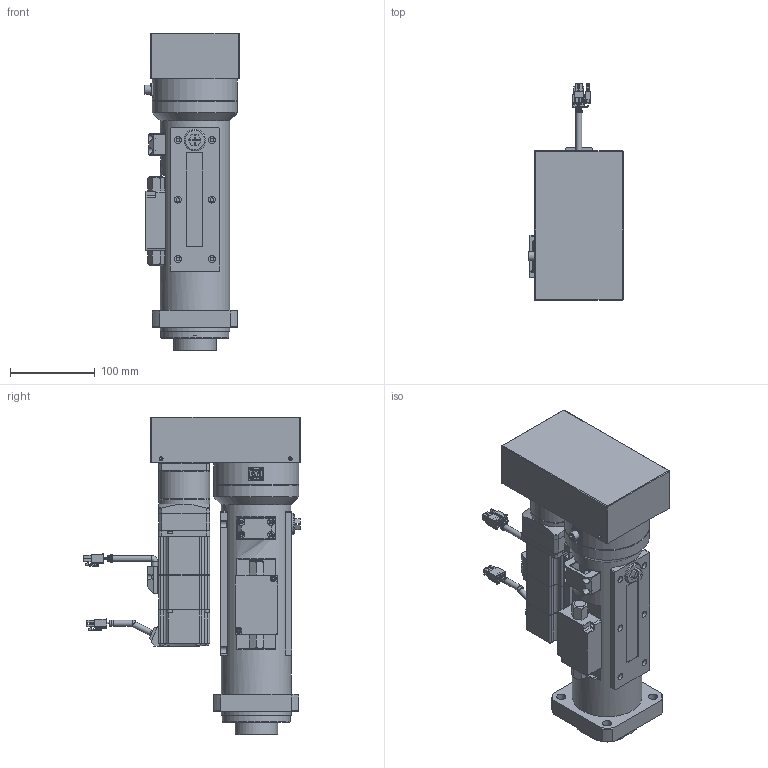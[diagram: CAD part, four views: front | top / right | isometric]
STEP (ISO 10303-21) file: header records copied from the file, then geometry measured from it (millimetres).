
FILE_DESCRIPTION( ('This file contains a STEP AP42 implementation' ,'as created by ZW3D STEP Interface translator.') ,'2;1' );
FILE_NAME( 'OACIS-P003-100-200-A6_ASM_V20.51_.stp' ,'26 314.125249', (''), ('ZWCAD Software Co.'), 'Version 1.0', 'ZW3D to STEP translator', '' );
FILE_SCHEMA(('AUTOMOTIVE_DESIGN { 1 0 10303 214 1 1 1 1 }'));
Length unit declared in the file: millimetre
Products named in the file (2): 0; OACIS-P003-100-200-A6_ASM_V20.51-2_
Bounding box: 110.7 x 255.3 x 374 mm (x, y, z)
Volume: 2593769.4 mm3; surface area: 621878.5 mm2
Topology: 24 solids, 33 shells, 2440 faces, 6316 edges, 4082 vertices
Faces by surface type: plane 1115, cylinder 910, cone 300, torus 68, bspline 30, sphere 17
Full cylindrical faces by diameter (mm): 1 x17, 1.567 x4, 1.754 x2, 1.755 x2, 1.82 x4, 2 x5, 2.2 x4, 2.5 x8, 2.6 x12, 3.2 x4, 3.242 x6, 3.3 x54, 4 x4, 4.134 x6, 4.2 x24, 4.3 x11, 4.5 x16, 4.917 x4, 5 x26, 5.3 x4, 5.5 x12, 6 x4, 6.5 x10, 6.6 x6, 7 x10, 7.2 x1, 8 x15, 8.5 x2, 9 x3, 10 x5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
Entity records: 79914 total; most frequent: CARTESIAN_POINT 15949, DIRECTION 13404, ORIENTED_EDGE 12498, EDGE_CURVE 6249, AXIS2_PLACEMENT_3D 5061, VERTEX_POINT 4082, VECTOR 3282, LINE 3282
